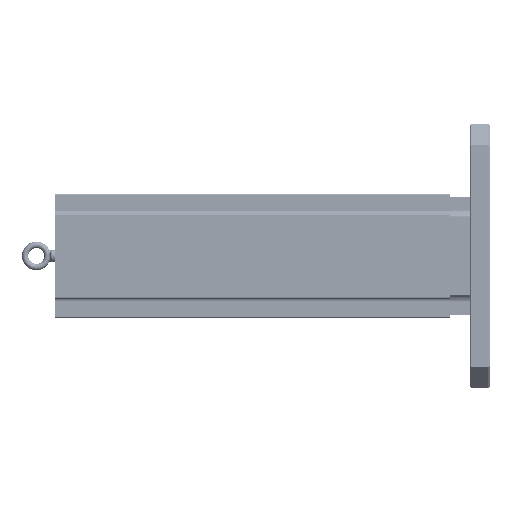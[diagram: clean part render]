
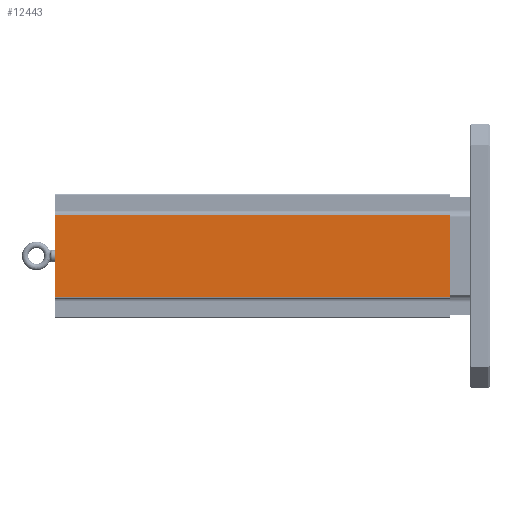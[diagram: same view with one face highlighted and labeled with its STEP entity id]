
A CAD part, left-side view. The second image highlights one B-rep face of the part: STEP entity #12443.
In plain terms, the highlighted planar face has unit normal (-1, 0, 0).
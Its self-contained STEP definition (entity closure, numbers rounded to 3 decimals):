
#3319 = LINE ( 'NONE', #32472, #22732 ) ;
#3783 = VECTOR ( 'NONE', #26220, 1000. ) ;
#10662 = EDGE_LOOP ( 'NONE', ( #27191, #21679, #13720, #19101 ) ) ;
#11001 = VERTEX_POINT ( 'NONE', #19130 ) ;
#12443 = ADVANCED_FACE ( 'NONE', ( #24744 ), #13948, .F. ) ;
#12839 = VERTEX_POINT ( 'NONE', #16138 ) ;
#13720 = ORIENTED_EDGE ( 'NONE', *, *, #21647, .F. ) ;
#13734 = CARTESIAN_POINT ( 'NONE',  ( -116.992, 787., -78.511 ) ) ;
#13948 = PLANE ( 'NONE',  #17001 ) ;
#14556 = VECTOR ( 'NONE', #24012, 1000. ) ;
#14663 = DIRECTION ( 'NONE',  ( 0., 0., -1. ) ) ;
#16138 = CARTESIAN_POINT ( 'NONE',  ( -116.992, 787., -78.511 ) ) ;
#16474 = EDGE_CURVE ( 'NONE', #12839, #31548, #18704, .T. ) ;
#17001 = AXIS2_PLACEMENT_3D ( 'NONE', #21665, #24917, #22178 ) ;
#17450 = EDGE_CURVE ( 'NONE', #25465, #11001, #3319, .T. ) ;
#18704 = LINE ( 'NONE', #13734, #14556 ) ;
#19101 = ORIENTED_EDGE ( 'NONE', *, *, #16474, .T. ) ;
#19130 = CARTESIAN_POINT ( 'NONE',  ( -116.992, 787., 78.511 ) ) ;
#19951 = VECTOR ( 'NONE', #14663, 1000. ) ;
#21647 = EDGE_CURVE ( 'NONE', #12839, #11001, #28807, .T. ) ;
#21665 = CARTESIAN_POINT ( 'NONE',  ( -116.992, 787., -79.273 ) ) ;
#21679 = ORIENTED_EDGE ( 'NONE', *, *, #17450, .T. ) ;
#21784 = CARTESIAN_POINT ( 'NONE',  ( -116.992, 787., -79.273 ) ) ;
#21878 = CARTESIAN_POINT ( 'NONE',  ( -116.992, 38.1, -79.273 ) ) ;
#22178 = DIRECTION ( 'NONE',  ( 0., 0., -1. ) ) ;
#22732 = VECTOR ( 'NONE', #32288, 1000. ) ;
#23174 = CARTESIAN_POINT ( 'NONE',  ( -116.992, 38.1, 78.511 ) ) ;
#24012 = DIRECTION ( 'NONE',  ( 0., -1., 0. ) ) ;
#24744 = FACE_OUTER_BOUND ( 'NONE', #10662, .T. ) ;
#24917 = DIRECTION ( 'NONE',  ( 1., 0., 0. ) ) ;
#25465 = VERTEX_POINT ( 'NONE', #23174 ) ;
#26220 = DIRECTION ( 'NONE',  ( 0., 0., 1. ) ) ;
#27191 = ORIENTED_EDGE ( 'NONE', *, *, #33242, .F. ) ;
#27518 = LINE ( 'NONE', #21878, #19951 ) ;
#27545 = CARTESIAN_POINT ( 'NONE',  ( -116.992, 38.1, -78.511 ) ) ;
#28807 = LINE ( 'NONE', #21784, #3783 ) ;
#31548 = VERTEX_POINT ( 'NONE', #27545 ) ;
#32288 = DIRECTION ( 'NONE',  ( 0., 1., 0. ) ) ;
#32472 = CARTESIAN_POINT ( 'NONE',  ( -116.992, 787., 78.511 ) ) ;
#33242 = EDGE_CURVE ( 'NONE', #25465, #31548, #27518, .T. ) ;
